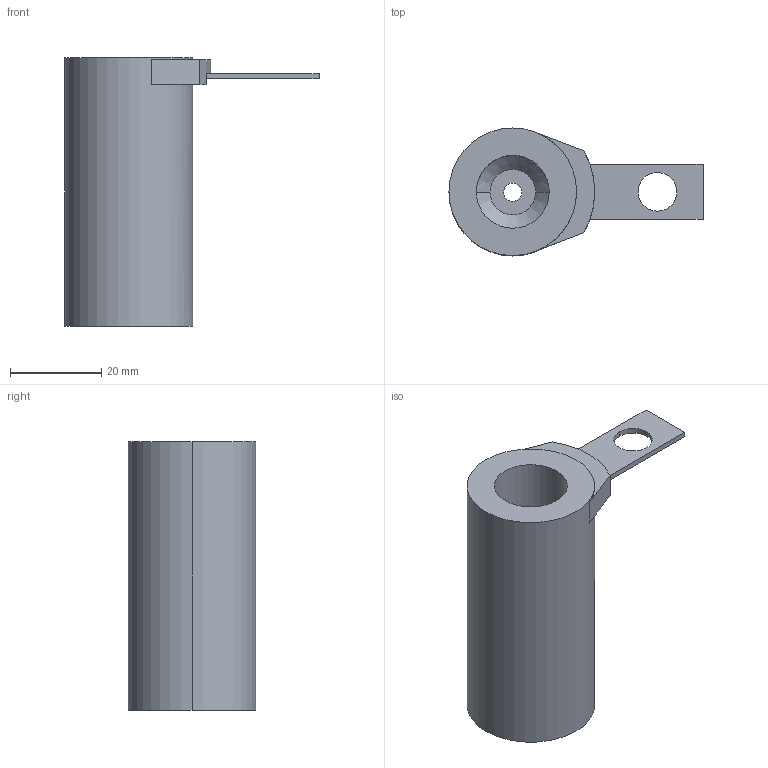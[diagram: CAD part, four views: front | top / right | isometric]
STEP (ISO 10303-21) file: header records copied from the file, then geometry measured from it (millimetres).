
FILE_DESCRIPTION(/* description */ (''),/* implementation_level */ '2;1');
FILE_NAME(/* name */ '3d_tus16-59_06247_r00.stp',/* time_stamp */ '2011-01-10T14:08:54+09:00',/* author */ ('MISUMI'),/* organization */ (''),/* preprocessor_version */ 'ST-DEVELOPER v11',/* originating_system */ 'UGS - NX 5.0',/* authorisation */ '');
FILE_SCHEMA (('CONFIG_CONTROL_DESIGN'));
Length unit declared in the file: millimetre
Products named in the file (1): 3d_tus16-59_06247_r00
Bounding box: 55.75 x 28 x 59 mm (x, y, z)
Volume: 26507.5 mm3; surface area: 9958.3 mm2
Topology: 2 solids, 2 shells, 28 faces, 67 edges, 44 vertices
Faces by surface type: plane 17, cylinder 9, cone 2
Entity records: 915 total; most frequent: DIRECTION 153, CARTESIAN_POINT 140, ORIENTED_EDGE 134, EDGE_CURVE 67, AXIS2_PLACEMENT_3D 57, VERTEX_POINT 44, LINE 39, VECTOR 39
